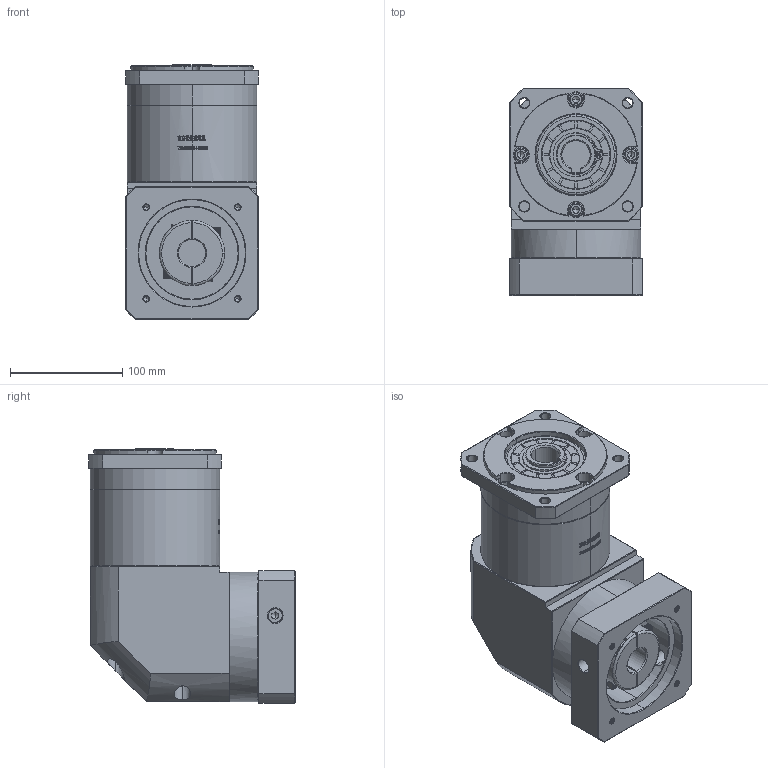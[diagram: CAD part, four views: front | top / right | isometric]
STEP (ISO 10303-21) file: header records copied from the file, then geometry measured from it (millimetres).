
FILE_DESCRIPTION (( 'STEP AP214' ), '1' );
FILE_NAME ('ZFR120A-K25-L2-24-95-115-M6.step', '2023-03-08T08:32:14', ( '' ), ( '' ), 'SwSTEP 2.0', 'SolidWorks 2016', '' );
FILE_SCHEMA (( 'AUTOMOTIVE_DESIGN' ));
Length unit declared in the file: millimetre
Products named in the file (1): ZFR120A-K25-L2-24-95-115-M6
Bounding box: 118 x 183.9 x 226.5 mm (x, y, z)
Volume: 3047469.6 mm3; surface area: 243787.5 mm2
Topology: 6 solids, 6 shells, 2801 faces, 7480 edges, 4823 vertices
Faces by surface type: plane 1476, bspline 601, cylinder 386, cone 330, torus 8
Entity records: 152659 total; most frequent: CARTESIAN_POINT 57576, ORIENTED_EDGE 14904, DIRECTION 10859, EDGE_CURVE 7452, VERTEX_POINT 4823, LINE 4675, VECTOR 4675, AXIS2_PLACEMENT_3D 3092
